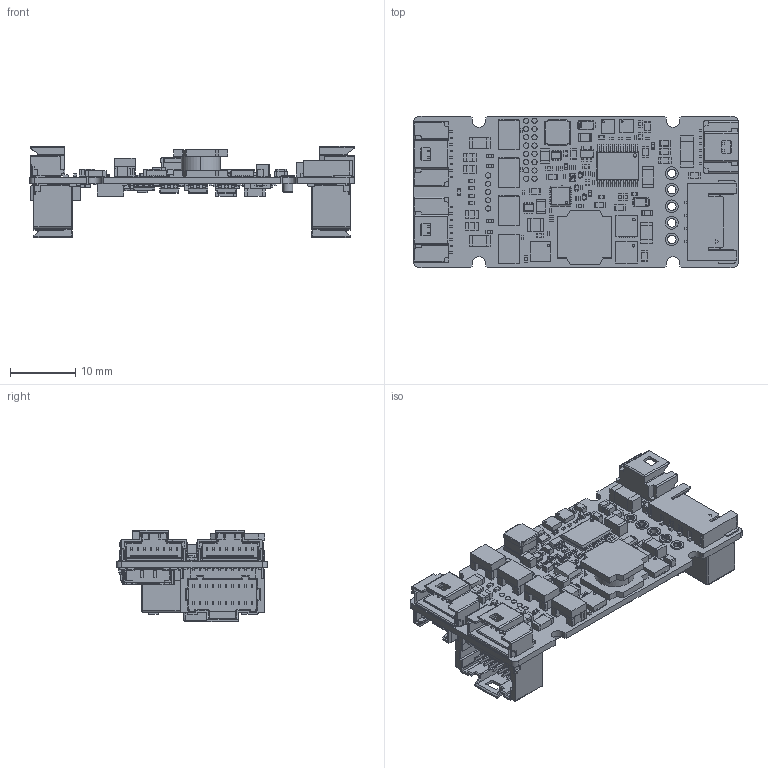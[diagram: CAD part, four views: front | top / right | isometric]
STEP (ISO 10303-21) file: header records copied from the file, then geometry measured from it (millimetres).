
FILE_DESCRIPTION(('Open CASCADE Model'),'2;1');
FILE_NAME('Open CASCADE Shape Model','2024-06-03T12:33:10',('Author'),( 'Open CASCADE'),'Open CASCADE STEP processor 7.5','Open CASCADE 7.5' ,'Unknown');
FILE_SCHEMA(('AUTOMOTIVE_DESIGN { 1 0 10303 214 1 1 1 1 }'));
Length unit declared in the file: millimetre
Products named in the file (1060): Open CASCADE STEP translator 7.5 1; Open CASCADE STEP translator 7.5 2; Open CASCADE STEP translator 7.5 3; Open CASCADE STEP translator 7.5 4; Open CASCADE STEP translator 7.5 5; Open CASCADE STEP translator 7.5 6; Open CASCADE STEP translator 7.5 7; Open CASCADE STEP translator 7.5 8; Open CASCADE STEP translator 7.5 9; Open CASCADE STEP translator 7.5 10; Open CASCADE STEP translator 7.5 11; Open CASCADE STEP translator 7.5 12; Open CASCADE STEP translator 7.5 13; Open CASCADE STEP translator 7.5 14; Open CASCADE STEP translator 7.5 15; Open CASCADE STEP translator 7.5 16; Open CASCADE STEP translator 7.5 17; Open CASCADE STEP translator 7.5 18; Open CASCADE STEP translator 7.5 19; Open CASCADE STEP translator 7.5 20; Open CASCADE STEP translator 7.5 21; Open CASCADE STEP translator 7.5 22; Open CASCADE STEP translator 7.5 23; Open CASCADE STEP translator 7.5 24; Open CASCADE STEP translator 7.5 25; Open CASCADE STEP translator 7.5 26; Open CASCADE STEP translator 7.5 27; Open CASCADE STEP translator 7.5 28; Open CASCADE STEP translator 7.5 29; Open CASCADE STEP translator 7.5 30; Open CASCADE STEP translator 7.5 31; Open CASCADE STEP translator 7.5 32; Open CASCADE STEP translator 7.5 33; Open CASCADE STEP translator 7.5 34; Open CASCADE STEP translator 7.5 35; Open CASCADE STEP translator 7.5 36; Open CASCADE STEP translator 7.5 37; Open CASCADE STEP translator 7.5 38; Open CASCADE STEP translator 7.5 39; Open CASCADE STEP translator 7.5 40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
Bounding box: 49.8 x 23.2 x 13.98 mm (x, y, z)
Volume: 3202.8 mm3; surface area: 9362.6 mm2
Topology: 1058 solids, 1071 shells, 12525 faces, 29864 edges, 19836 vertices
Faces by surface type: plane 11392, cylinder 906, sphere 104, bspline 101, cone 22
Full cylindrical faces by diameter (mm): 0.2 x2, 0.263 x2, 0.312 x2, 0.388 x2, 0.4 x7, 0.8 x21
Entity records: 388222 total; most frequent: CARTESIAN_POINT 70327, ORIENTED_EDGE 58622, DIRECTION 55688, EDGE_CURVE 29376, LINE 27654, VECTOR 27654, VERTEX_POINT 19054, AXIS2_PLACEMENT_3D 14017
